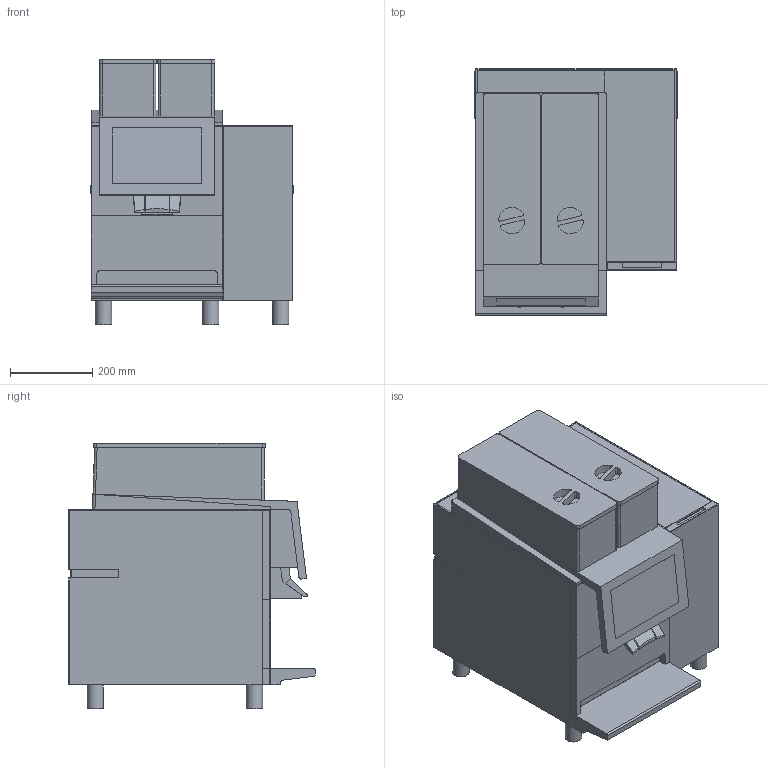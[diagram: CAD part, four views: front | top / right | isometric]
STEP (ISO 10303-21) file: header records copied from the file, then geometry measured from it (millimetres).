
FILE_DESCRIPTION(/* description */ ('Unknown'),/* implementation_level */ '2;1');
FILE_NAME(/* name */ 'HM_BW4-CTM-F',/* time_stamp */ '2026-08-14T11:18:23+02:00',/* author */ ('Unknown'),/* organization */ ('Unknown'),/* preprocessor_version */ 'ST-DEVELOPER v20',/* originating_system */ 'Solid Edge',/* authorisation */ 'Unknown');
FILE_SCHEMA (('AUTOMOTIVE_DESIGN {1 0 10303 214 3 1 1}'));
Length unit declared in the file: millimetre
Products named in the file (1): HM_BW4-CTM-F
Bounding box: 491.3 x 599.39 x 645.65 mm (x, y, z)
Volume: 124971341.6 mm3; surface area: 2007548.8 mm2
Topology: 1 solids, 1 shells, 275 faces, 750 edges, 481 vertices
Faces by surface type: plane 200, cylinder 71, sphere 4
Full cylindrical faces by diameter (mm): 40 x6
Entity records: 10516 total; most frequent: CARTESIAN_POINT 1493, ORIENTED_EDGE 1476, DIRECTION 1448, EDGE_CURVE 738, LINE 580, VECTOR 580, VERTEX_POINT 479, AXIS2_PLACEMENT_3D 434
